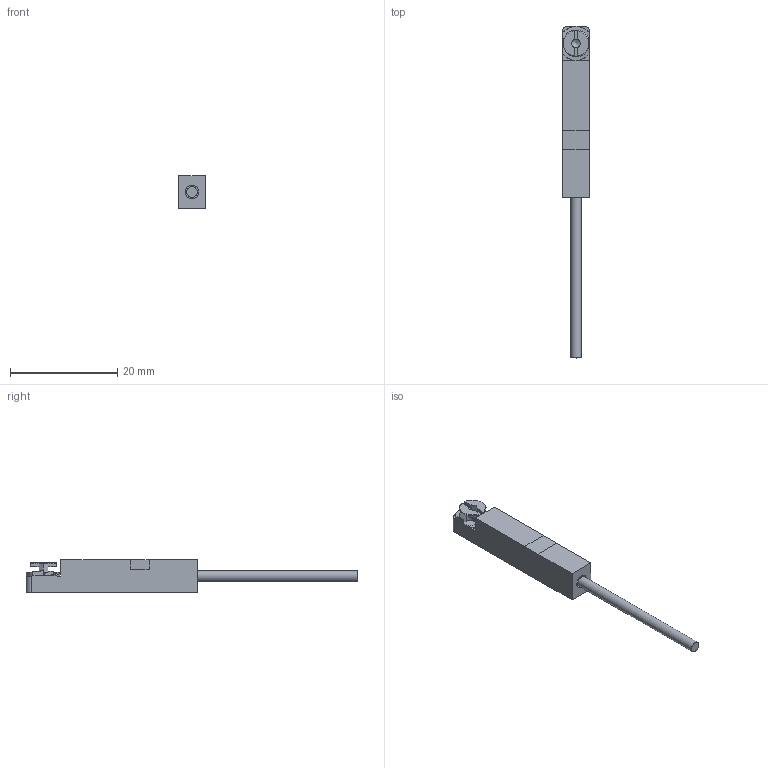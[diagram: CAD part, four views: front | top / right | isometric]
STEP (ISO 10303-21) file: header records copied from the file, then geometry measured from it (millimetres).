
FILE_DESCRIPTION((''),'2;1');
FILE_NAME('C:\TurckZip\BIM-INT.stp','2009-06-11T07:46:02',('IKOROL'),(''),'Autodesk Inventor 2009','Autodesk Inventor 2009','');
FILE_SCHEMA(('CONFIG_CONTROL_DESIGN'));
Length unit declared in the file: millimetre
Products named in the file (1): Part4
Bounding box: 5 x 62 x 6 mm (x, y, z)
Volume: 963.6 mm3; surface area: 967.2 mm2
Topology: 2 solids, 3 shells, 55 faces, 130 edges, 82 vertices
Faces by surface type: plane 41, cylinder 9, bspline 3, cone 2
Full cylindrical faces by diameter (mm): 1.6 x1, 2 x1, 2.5 x1, 5 x2
Entity records: 1748 total; most frequent: CARTESIAN_POINT 440, ORIENTED_EDGE 248, DIRECTION 240, EDGE_CURVE 124, VECTOR 88, LINE 88, VERTEX_POINT 80, AXIS2_PLACEMENT_3D 76
